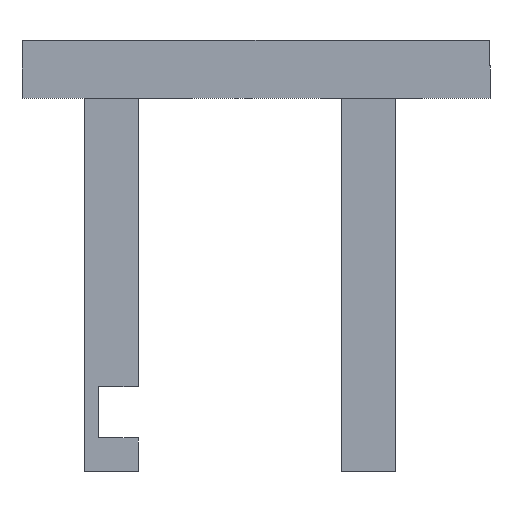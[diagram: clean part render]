
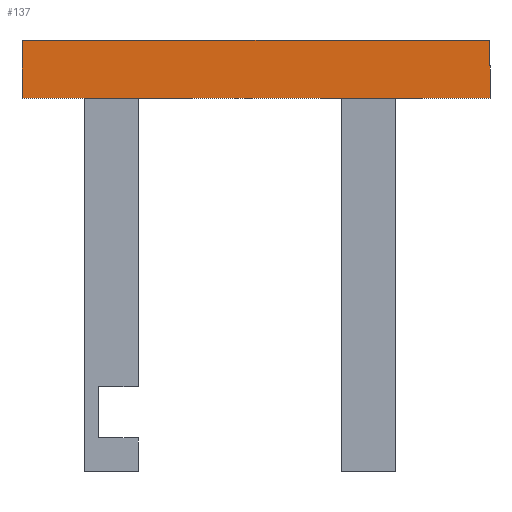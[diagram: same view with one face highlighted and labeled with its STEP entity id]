
A CAD part, front view. The second image highlights one B-rep face of the part: STEP entity #137.
In plain terms, the highlighted planar face has unit normal (0, -1, 0).
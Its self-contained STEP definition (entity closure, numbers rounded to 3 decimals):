
#21 = EDGE_CURVE('',#22,#24,#26,.T.);
#22 = VERTEX_POINT('',#23);
#23 = CARTESIAN_POINT('',(-63.6,68.,141.6));
#24 = VERTEX_POINT('',#25);
#25 = CARTESIAN_POINT('',(-63.6,68.,144.));
#26 = SURFACE_CURVE('',#27,(#31,#43),.PCURVE_S1.);
#27 = LINE('',#28,#29);
#28 = CARTESIAN_POINT('',(-63.6,68.,141.6));
#29 = VECTOR('',#30,1.);
#30 = DIRECTION('',(0.,0.,1.));
#31 = PCURVE('',#32,#37);
#32 = PLANE('',#33);
#33 = AXIS2_PLACEMENT_3D('',#34,#35,#36);
#34 = CARTESIAN_POINT('',(-63.6,68.,141.6));
#35 = DIRECTION('',(1.,0.,0.));
#36 = DIRECTION('',(0.,0.,1.));
#37 = DEFINITIONAL_REPRESENTATION('',(#38),#42);
#38 = LINE('',#39,#40);
#39 = CARTESIAN_POINT('',(0.,0.));
#40 = VECTOR('',#41,1.);
#41 = DIRECTION('',(1.,0.));
#42 = ( GEOMETRIC_REPRESENTATION_CONTEXT(2) 
PARAMETRIC_REPRESENTATION_CONTEXT() REPRESENTATION_CONTEXT('2D SPACE',''
  ) );
#43 = PCURVE('',#44,#49);
#44 = PLANE('',#45);
#45 = AXIS2_PLACEMENT_3D('',#46,#47,#48);
#46 = CARTESIAN_POINT('',(-46.3,68.,143.748));
#47 = DIRECTION('',(-0.,-1.,-0.));
#48 = DIRECTION('',(0.,0.,-1.));
#49 = DEFINITIONAL_REPRESENTATION('',(#50),#54);
#50 = LINE('',#51,#52);
#51 = CARTESIAN_POINT('',(2.148,-17.3));
#52 = VECTOR('',#53,1.);
#53 = DIRECTION('',(-1.,0.));
#54 = ( GEOMETRIC_REPRESENTATION_CONTEXT(2) 
PARAMETRIC_REPRESENTATION_CONTEXT() REPRESENTATION_CONTEXT('2D SPACE',''
  ) );
#72 = PLANE('',#73);
#73 = AXIS2_PLACEMENT_3D('',#74,#75,#76);
#74 = CARTESIAN_POINT('',(-63.6,68.,141.6));
#75 = DIRECTION('',(0.,0.,1.));
#76 = DIRECTION('',(1.,0.,0.));
#126 = PLANE('',#127);
#127 = AXIS2_PLACEMENT_3D('',#128,#129,#130);
#128 = CARTESIAN_POINT('',(-63.6,68.,144.));
#129 = DIRECTION('',(0.,0.,1.));
#130 = DIRECTION('',(1.,0.,0.));
#137 = ADVANCED_FACE('',(#138),#44,.T.);
#138 = FACE_BOUND('',#139,.T.);
#139 = EDGE_LOOP('',(#140,#170,#193,#221,#249,#277,#298,#299));
#140 = ORIENTED_EDGE('',*,*,#141,.T.);
#141 = EDGE_CURVE('',#142,#144,#146,.T.);
#142 = VERTEX_POINT('',#143);
#143 = CARTESIAN_POINT('',(-29.,68.,141.6));
#144 = VERTEX_POINT('',#145);
#145 = CARTESIAN_POINT('',(-29.,68.,144.));
#146 = SURFACE_CURVE('',#147,(#151,#158),.PCURVE_S1.);
#147 = LINE('',#148,#149);
#148 = CARTESIAN_POINT('',(-29.,68.,141.6));
#149 = VECTOR('',#150,1.);
#150 = DIRECTION('',(0.,0.,1.));
#151 = PCURVE('',#44,#152);
#152 = DEFINITIONAL_REPRESENTATION('',(#153),#157);
#153 = LINE('',#154,#155);
#154 = CARTESIAN_POINT('',(2.148,17.3));
#155 = VECTOR('',#156,1.);
#156 = DIRECTION('',(-1.,0.));
#157 = ( GEOMETRIC_REPRESENTATION_CONTEXT(2) 
PARAMETRIC_REPRESENTATION_CONTEXT() REPRESENTATION_CONTEXT('2D SPACE',''
  ) );
#158 = PCURVE('',#159,#164);
#159 = PLANE('',#160);
#160 = AXIS2_PLACEMENT_3D('',#161,#162,#163);
#161 = CARTESIAN_POINT('',(-29.,68.,141.6));
#162 = DIRECTION('',(1.,0.,0.));
#163 = DIRECTION('',(0.,0.,1.));
#164 = DEFINITIONAL_REPRESENTATION('',(#165),#169);
#165 = LINE('',#166,#167);
#166 = CARTESIAN_POINT('',(0.,0.));
#167 = VECTOR('',#168,1.);
#168 = DIRECTION('',(1.,0.));
#169 = ( GEOMETRIC_REPRESENTATION_CONTEXT(2) 
PARAMETRIC_REPRESENTATION_CONTEXT() REPRESENTATION_CONTEXT('2D SPACE',''
  ) );
#170 = ORIENTED_EDGE('',*,*,#171,.F.);
#171 = EDGE_CURVE('',#172,#144,#174,.T.);
#172 = VERTEX_POINT('',#173);
#173 = CARTESIAN_POINT('',(-29.05,68.,144.));
#174 = SURFACE_CURVE('',#175,(#179,#186),.PCURVE_S1.);
#175 = LINE('',#176,#177);
#176 = CARTESIAN_POINT('',(-63.6,68.,144.));
#177 = VECTOR('',#178,1.);
#178 = DIRECTION('',(1.,0.,0.));
#179 = PCURVE('',#44,#180);
#180 = DEFINITIONAL_REPRESENTATION('',(#181),#185);
#181 = LINE('',#182,#183);
#182 = CARTESIAN_POINT('',(-0.252,-17.3));
#183 = VECTOR('',#184,1.);
#184 = DIRECTION('',(0.,1.));
#185 = ( GEOMETRIC_REPRESENTATION_CONTEXT(2) 
PARAMETRIC_REPRESENTATION_CONTEXT() REPRESENTATION_CONTEXT('2D SPACE',''
  ) );
#186 = PCURVE('',#126,#187);
#187 = DEFINITIONAL_REPRESENTATION('',(#188),#192);
#188 = LINE('',#189,#190);
#189 = CARTESIAN_POINT('',(0.,0.));
#190 = VECTOR('',#191,1.);
#191 = DIRECTION('',(1.,0.));
#192 = ( GEOMETRIC_REPRESENTATION_CONTEXT(2) 
PARAMETRIC_REPRESENTATION_CONTEXT() REPRESENTATION_CONTEXT('2D SPACE',''
  ) );
#193 = ORIENTED_EDGE('',*,*,#194,.T.);
#194 = EDGE_CURVE('',#172,#195,#197,.T.);
#195 = VERTEX_POINT('',#196);
#196 = CARTESIAN_POINT('',(-29.05,68.,145.9));
#197 = SURFACE_CURVE('',#198,(#202,#209),.PCURVE_S1.);
#198 = LINE('',#199,#200);
#199 = CARTESIAN_POINT('',(-29.05,68.,143.8));
#200 = VECTOR('',#201,1.);
#201 = DIRECTION('',(0.,0.,1.));
#202 = PCURVE('',#44,#203);
#203 = DEFINITIONAL_REPRESENTATION('',(#204),#208);
#204 = LINE('',#205,#206);
#205 = CARTESIAN_POINT('',(-0.052,17.25));
#206 = VECTOR('',#207,1.);
#207 = DIRECTION('',(-1.,0.));
#208 = ( GEOMETRIC_REPRESENTATION_CONTEXT(2) 
PARAMETRIC_REPRESENTATION_CONTEXT() REPRESENTATION_CONTEXT('2D SPACE',''
  ) );
#209 = PCURVE('',#210,#215);
#210 = PLANE('',#211);
#211 = AXIS2_PLACEMENT_3D('',#212,#213,#214);
#212 = CARTESIAN_POINT('',(-29.05,68.,143.8));
#213 = DIRECTION('',(1.,0.,0.));
#214 = DIRECTION('',(0.,0.,1.));
#215 = DEFINITIONAL_REPRESENTATION('',(#216),#220);
#216 = LINE('',#217,#218);
#217 = CARTESIAN_POINT('',(0.,0.));
#218 = VECTOR('',#219,1.);
#219 = DIRECTION('',(1.,0.));
#220 = ( GEOMETRIC_REPRESENTATION_CONTEXT(2) 
PARAMETRIC_REPRESENTATION_CONTEXT() REPRESENTATION_CONTEXT('2D SPACE',''
  ) );
#221 = ORIENTED_EDGE('',*,*,#222,.F.);
#222 = EDGE_CURVE('',#223,#195,#225,.T.);
#223 = VERTEX_POINT('',#224);
#224 = CARTESIAN_POINT('',(-63.55,68.,145.9));
#225 = SURFACE_CURVE('',#226,(#230,#237),.PCURVE_S1.);
#226 = LINE('',#227,#228);
#227 = CARTESIAN_POINT('',(-63.55,68.,145.9));
#228 = VECTOR('',#229,1.);
#229 = DIRECTION('',(1.,0.,0.));
#230 = PCURVE('',#44,#231);
#231 = DEFINITIONAL_REPRESENTATION('',(#232),#236);
#232 = LINE('',#233,#234);
#233 = CARTESIAN_POINT('',(-2.152,-17.25));
#234 = VECTOR('',#235,1.);
#235 = DIRECTION('',(0.,1.));
#236 = ( GEOMETRIC_REPRESENTATION_CONTEXT(2) 
PARAMETRIC_REPRESENTATION_CONTEXT() REPRESENTATION_CONTEXT('2D SPACE',''
  ) );
#237 = PCURVE('',#238,#243);
#238 = PLANE('',#239);
#239 = AXIS2_PLACEMENT_3D('',#240,#241,#242);
#240 = CARTESIAN_POINT('',(-63.55,68.,145.9));
#241 = DIRECTION('',(0.,0.,1.));
#242 = DIRECTION('',(1.,0.,0.));
#243 = DEFINITIONAL_REPRESENTATION('',(#244),#248);
#244 = LINE('',#245,#246);
#245 = CARTESIAN_POINT('',(0.,0.));
#246 = VECTOR('',#247,1.);
#247 = DIRECTION('',(1.,0.));
#248 = ( GEOMETRIC_REPRESENTATION_CONTEXT(2) 
PARAMETRIC_REPRESENTATION_CONTEXT() REPRESENTATION_CONTEXT('2D SPACE',''
  ) );
#249 = ORIENTED_EDGE('',*,*,#250,.F.);
#250 = EDGE_CURVE('',#251,#223,#253,.T.);
#251 = VERTEX_POINT('',#252);
#252 = CARTESIAN_POINT('',(-63.55,68.,144.));
#253 = SURFACE_CURVE('',#254,(#258,#265),.PCURVE_S1.);
#254 = LINE('',#255,#256);
#255 = CARTESIAN_POINT('',(-63.55,68.,143.8));
#256 = VECTOR('',#257,1.);
#257 = DIRECTION('',(0.,0.,1.));
#258 = PCURVE('',#44,#259);
#259 = DEFINITIONAL_REPRESENTATION('',(#260),#264);
#260 = LINE('',#261,#262);
#261 = CARTESIAN_POINT('',(-0.052,-17.25));
#262 = VECTOR('',#263,1.);
#263 = DIRECTION('',(-1.,0.));
#264 = ( GEOMETRIC_REPRESENTATION_CONTEXT(2) 
PARAMETRIC_REPRESENTATION_CONTEXT() REPRESENTATION_CONTEXT('2D SPACE',''
  ) );
#265 = PCURVE('',#266,#271);
#266 = PLANE('',#267);
#267 = AXIS2_PLACEMENT_3D('',#268,#269,#270);
#268 = CARTESIAN_POINT('',(-63.55,68.,143.8));
#269 = DIRECTION('',(1.,0.,0.));
#270 = DIRECTION('',(0.,0.,1.));
#271 = DEFINITIONAL_REPRESENTATION('',(#272),#276);
#272 = LINE('',#273,#274);
#273 = CARTESIAN_POINT('',(0.,0.));
#274 = VECTOR('',#275,1.);
#275 = DIRECTION('',(1.,0.));
#276 = ( GEOMETRIC_REPRESENTATION_CONTEXT(2) 
PARAMETRIC_REPRESENTATION_CONTEXT() REPRESENTATION_CONTEXT('2D SPACE',''
  ) );
#277 = ORIENTED_EDGE('',*,*,#278,.F.);
#278 = EDGE_CURVE('',#24,#251,#279,.T.);
#279 = SURFACE_CURVE('',#280,(#284,#291),.PCURVE_S1.);
#280 = LINE('',#281,#282);
#281 = CARTESIAN_POINT('',(-63.6,68.,144.));
#282 = VECTOR('',#283,1.);
#283 = DIRECTION('',(1.,0.,0.));
#284 = PCURVE('',#44,#285);
#285 = DEFINITIONAL_REPRESENTATION('',(#286),#290);
#286 = LINE('',#287,#288);
#287 = CARTESIAN_POINT('',(-0.252,-17.3));
#288 = VECTOR('',#289,1.);
#289 = DIRECTION('',(0.,1.));
#290 = ( GEOMETRIC_REPRESENTATION_CONTEXT(2) 
PARAMETRIC_REPRESENTATION_CONTEXT() REPRESENTATION_CONTEXT('2D SPACE',''
  ) );
#291 = PCURVE('',#126,#292);
#292 = DEFINITIONAL_REPRESENTATION('',(#293),#297);
#293 = LINE('',#294,#295);
#294 = CARTESIAN_POINT('',(0.,0.));
#295 = VECTOR('',#296,1.);
#296 = DIRECTION('',(1.,0.));
#297 = ( GEOMETRIC_REPRESENTATION_CONTEXT(2) 
PARAMETRIC_REPRESENTATION_CONTEXT() REPRESENTATION_CONTEXT('2D SPACE',''
  ) );
#298 = ORIENTED_EDGE('',*,*,#21,.F.);
#299 = ORIENTED_EDGE('',*,*,#300,.T.);
#300 = EDGE_CURVE('',#22,#142,#301,.T.);
#301 = SURFACE_CURVE('',#302,(#306,#313),.PCURVE_S1.);
#302 = LINE('',#303,#304);
#303 = CARTESIAN_POINT('',(-63.6,68.,141.6));
#304 = VECTOR('',#305,1.);
#305 = DIRECTION('',(1.,0.,0.));
#306 = PCURVE('',#44,#307);
#307 = DEFINITIONAL_REPRESENTATION('',(#308),#312);
#308 = LINE('',#309,#310);
#309 = CARTESIAN_POINT('',(2.148,-17.3));
#310 = VECTOR('',#311,1.);
#311 = DIRECTION('',(0.,1.));
#312 = ( GEOMETRIC_REPRESENTATION_CONTEXT(2) 
PARAMETRIC_REPRESENTATION_CONTEXT() REPRESENTATION_CONTEXT('2D SPACE',''
  ) );
#313 = PCURVE('',#72,#314);
#314 = DEFINITIONAL_REPRESENTATION('',(#315),#319);
#315 = LINE('',#316,#317);
#316 = CARTESIAN_POINT('',(0.,0.));
#317 = VECTOR('',#318,1.);
#318 = DIRECTION('',(1.,0.));
#319 = ( GEOMETRIC_REPRESENTATION_CONTEXT(2) 
PARAMETRIC_REPRESENTATION_CONTEXT() REPRESENTATION_CONTEXT('2D SPACE',''
  ) );
